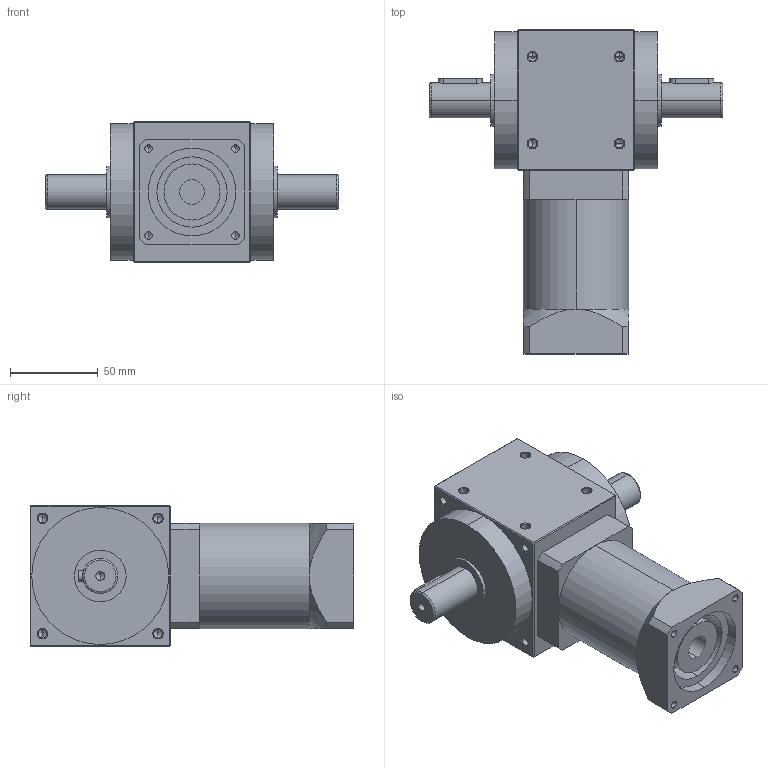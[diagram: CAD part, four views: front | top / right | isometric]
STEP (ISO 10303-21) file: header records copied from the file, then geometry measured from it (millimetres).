
FILE_DESCRIPTION (( 'STEP AP214' ), '1' );
FILE_NAME ('AAW080AS-010-2P-L1(3-10) 14-50-70-M5.STEP', '2020-11-23T01:54:22', ( '微软用户' ), ( '微软中国' ), 'SwSTEP 2.0', 'SolidWorks 2014', '' );
FILE_SCHEMA (( 'AUTOMOTIVE_DESIGN' ));
Length unit declared in the file: millimetre
Products named in the file (2): AAW080AS-010-2P-L1(3-10) 14-50-70-M5
Bounding box: 167 x 184.5 x 80 mm (x, y, z)
Volume: 869161.4 mm3; surface area: 86317.7 mm2
Topology: 2 solids, 2 shells, 256 faces, 581 edges, 324 vertices
Faces by surface type: cone 107, cylinder 88, plane 57, torus 4
Entity records: 9349 total; most frequent: CARTESIAN_POINT 1472, DIRECTION 1259, ORIENTED_EDGE 1090, EDGE_CURVE 545, AXIS2_PLACEMENT_3D 501, VERTEX_POINT 324, EDGE_LOOP 295, VECTOR 257
